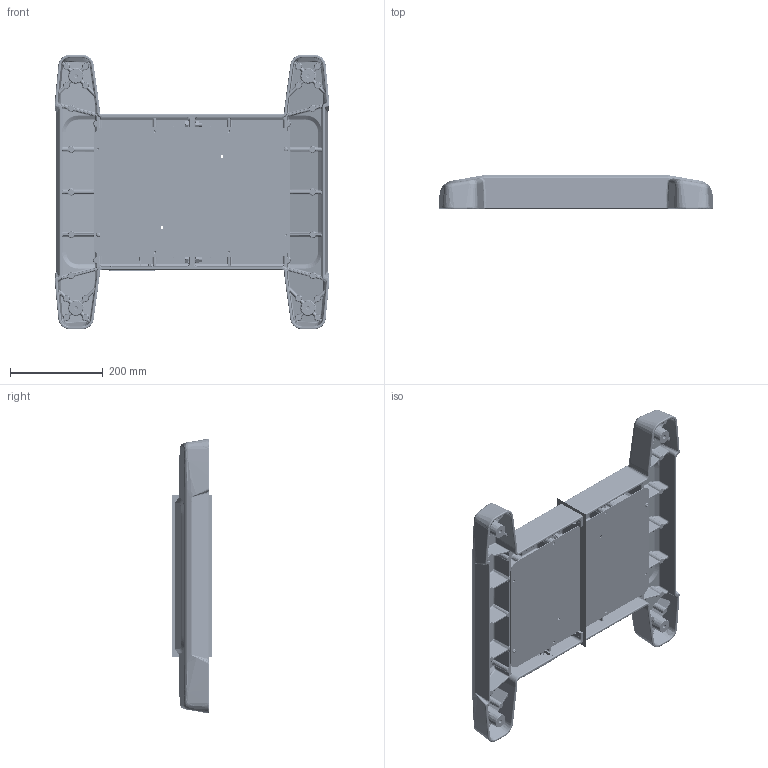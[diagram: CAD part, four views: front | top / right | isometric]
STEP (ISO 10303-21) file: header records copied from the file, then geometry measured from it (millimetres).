
FILE_DESCRIPTION((''),'2;1');
FILE_NAME('1016552200_ASM','2020-11-09T07:51:25',('silke.otte'),(''),'CREO PARAMETRIC BY PTC INC, 2018300','CREO PARAMETRIC BY PTC INC, 2018300','');
FILE_SCHEMA(('AUTOMOTIVE_DESIGN { 1 0 10303 214 1 1 1 1 }'));
Products named in the file (23): 9324252000_AF0; 9620486000_ASM; 9324252000_AF1; 9620486000_AF0_ASM; 9620492000_ASM; 9262106000; 9411082000; 9261441000; 9262109000; 9261363000; 9281815000; 9263135000; 9511000079; 9261464000; 9511000102; 9263079000; 9511000102_ASM; SENKSCHR_M4X10TX-A2_ISO14581; 9261278000_ASM; 9411126000_FLEXBASE-BLEND_BMA; 9262012000; 9281838000; 1016552200_ASM
Assembly tree (46 placements, depth 4):
  1016552200_ASM
    9620486000_ASM
      9324252000_AF0
    9620492000_ASM
      9620486000_AF0_ASM
        9324252000_AF1
    9262106000  x4
    9411082000
    9261441000  x4
    9262109000  x8
    9261363000  x4
    9281815000  x4
    9263135000  x2
    9511000079
    9261464000  x2
    9511000102_ASM
      9511000102
      9263079000
    9261278000_ASM  x4
      SENKSCHR_M4X10TX-A2_ISO14581
    9411126000_FLEXBASE-BLEND_BMA
    9262012000
    9281838000
Bounding box: 591.48 x 88.15 x 591.42 mm (x, y, z)
Volume: 3753018.6 mm3; surface area: 1396449.6 mm2
Topology: 41 solids, 82 shells, 5481 faces, 13560 edges, 7954 vertices
Faces by surface type: bspline 1968, cylinder 1596, plane 976, cone 502, torus 307, sphere 128, extrusion 4
Entity records: 253203 total; most frequent: CARTESIAN_POINT 134377, ORIENTED_EDGE 18730, DIRECTION 14842, EDGE_CURVE 9421, PRESENTATION_STYLE_ASSIGNMENT 9224, STYLED_ITEM 9194, CURVE_STYLE 9131, AXIS2_PLACEMENT_3D 6052
